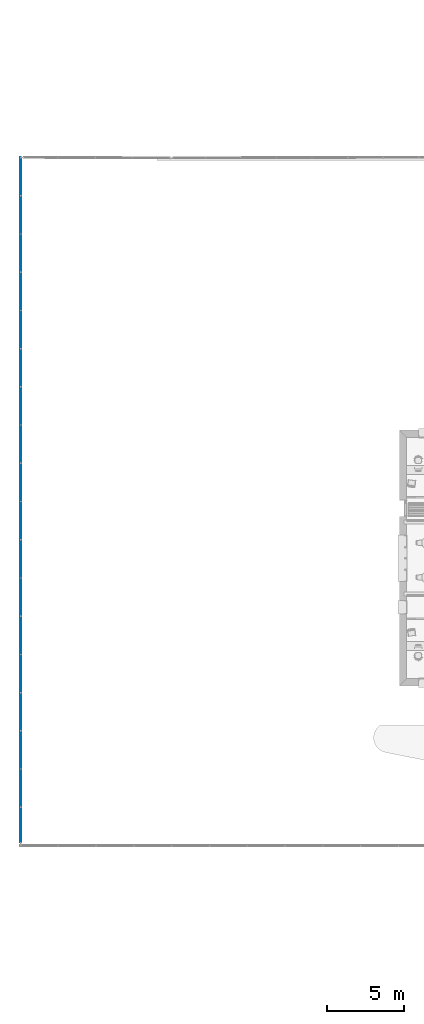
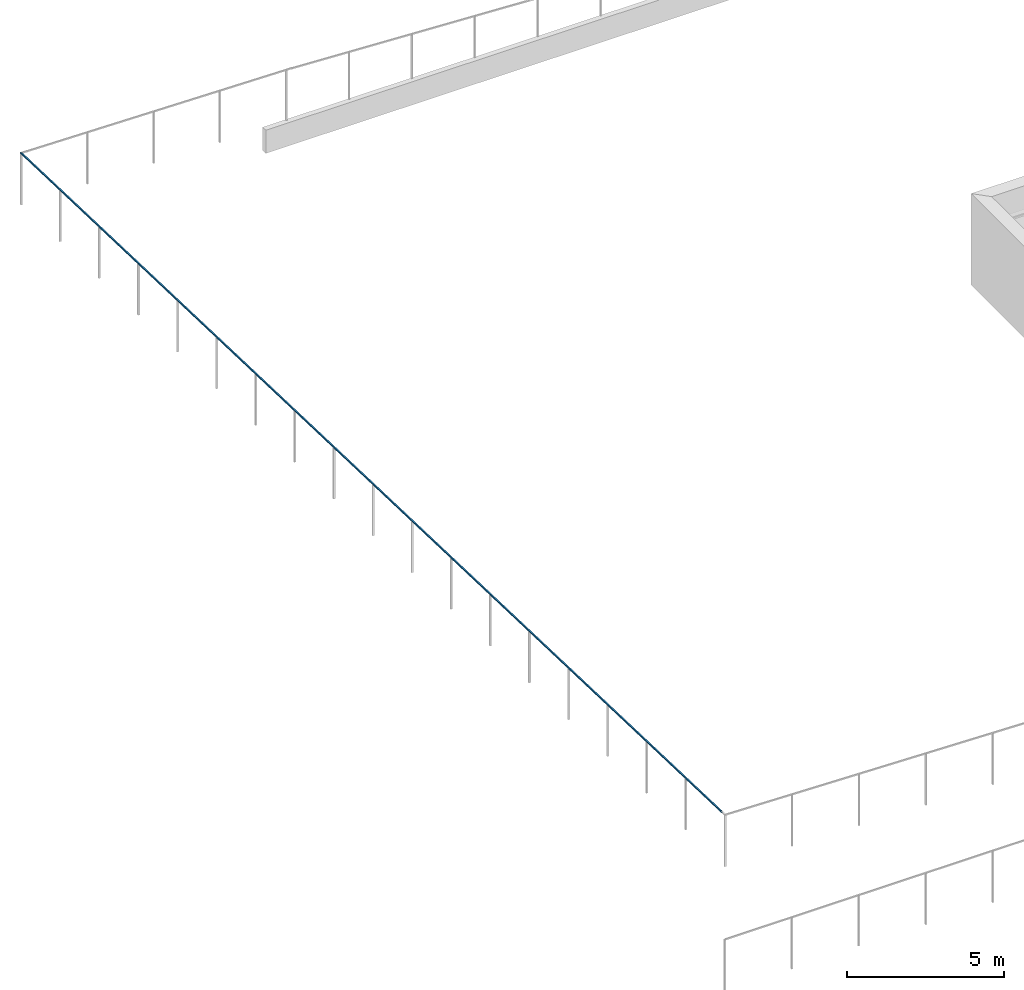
# One storey, part 53 of 91: 1 building element part, 1 element without a shape of its own.
"""IFC2X3 building model written with IfcOpenShell, lengths in metres."""

from ifc_helpers import new_model, entity, si_unit, converted_unit, derived_unit, money_unit, direction, frame, origin_with_axes, place, context, subcontext, project, spatial, faceted_brep, material, type_object, element, aggregate, save


model = new_model("IFC2X3")

# Units and contexts
model_context = context("Model", 3, precision=1e-05, world=origin_with_axes(), true_north=direction((0.0, 1.0)))
body_context = subcontext(model_context, "Body", "Model", "MODEL_VIEW")
ifc_project = project(units=[si_unit("LENGTHUNIT", "METRE"), si_unit("AREAUNIT", "SQUARE_METRE"), si_unit("VOLUMEUNIT", "CUBIC_METRE"), converted_unit("PLANEANGLEUNIT", "DEGREE", entity("IfcPlaneAngleMeasure", 0.0174532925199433), si_unit("PLANEANGLEUNIT", "RADIAN"), dimensions=[0, 0, 0, 0, 0, 0, 0]), money_unit("EUR"), converted_unit("TIMEUNIT", "Year", entity("IfcTimeMeasure", 31557600.0), si_unit("TIMEUNIT", "SECOND"), dimensions=[0, 0, 1, 0, 0, 0, 0]), si_unit("MASSUNIT", "GRAM", prefix="KILO"), si_unit("THERMODYNAMICTEMPERATUREUNIT", "DEGREE_CELSIUS"), si_unit("LUMINOUSINTENSITYUNIT", "LUMEN"), si_unit("ENERGYUNIT", "JOULE", prefix="MEGA"), derived_unit("THERMALCONDUCTANCEUNIT", [(si_unit("POWERUNIT", "WATT"), 1), (si_unit("LENGTHUNIT", "METRE"), -1), (si_unit("THERMODYNAMICTEMPERATUREUNIT", "KELVIN"), -1)]), derived_unit("SPECIFICHEATCAPACITYUNIT", [(si_unit("ENERGYUNIT", "JOULE"), 1), (si_unit("MASSUNIT", "GRAM", prefix="KILO"), -1), (si_unit("THERMODYNAMICTEMPERATUREUNIT", "KELVIN"), -1)]), derived_unit("MASSDENSITYUNIT", [(si_unit("MASSUNIT", "GRAM", prefix="KILO"), 1), (si_unit("VOLUMEUNIT", "CUBIC_METRE"), -1)])], contexts=[model_context])

# Site, building, storey
site_placement = place(None, origin_with_axes())
site = spatial("IfcSite", under=ifc_project, at=site_placement, Name="Site", CompositionType="ELEMENT")
building_placement = place(site_placement, origin_with_axes())
building = spatial("IfcBuilding", under=site, at=building_placement, Name="Bâtiment", CompositionType="ELEMENT")
storey_placement = place(building_placement, origin_with_axes())
storey = spatial("IfcBuildingStorey", under=building, at=storey_placement, Name="RDC", CompositionType="ELEMENT", Elevation=0.0)

# Proxy, building element part
building_element_proxy_type = type_object("IfcBuildingElementProxyType", Name="Type de garde-corps", PredefinedType="NOTDEFINED")
proxy_placement = place(storey_placement, frame((79.63337255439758, 3.614023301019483, -2.37161404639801), z_axis=(0.0, 0.0, 1.0), x_axis=(1.0, 0.0, 0.0)))
proxy = element("IfcBuildingElementProxy", 1, at=proxy_placement, inside=storey, type_object=building_element_proxy_type, Name="RAMPE-004")
ifc_material = material(Name="Acier Galva")
building_element_part_placement = place(proxy_placement, origin_with_axes())
building_element_part = element("IfcBuildingElementPart", 2, at=building_element_part_placement, material=ifc_material, Name="Acier Galva", context=body_context, shape_type="Brep", body=[
    faceted_brep([(-79.71914254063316, 3.405237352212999, 5.397261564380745), (-79.71995594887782, 3.404427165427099, 5.347268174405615), (-79.71885429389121, -41.28792903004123, 6.795750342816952), (-79.66916819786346, 3.355064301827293, 5.397261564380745), (-79.66998160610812, 3.354254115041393, 5.347268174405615), (-79.6688542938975, -41.28792823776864, 6.795750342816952), (-79.7188550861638, -41.2379290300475, 6.844155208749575), (-79.66885508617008, -41.23792823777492, 6.844155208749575)], [[[0, 1, 2]], [[0, 3, 4, 1]], [[1, 5, 2]], [[0, 2, 6]], [[3, 0, 6]], [[4, 3, 7]], [[1, 4, 5]], [[6, 2, 5, 7]], [[3, 6, 7]], [[4, 7, 5]]]),
])
aggregate(proxy, [building_element_part])

save(model, "model.ifc")
